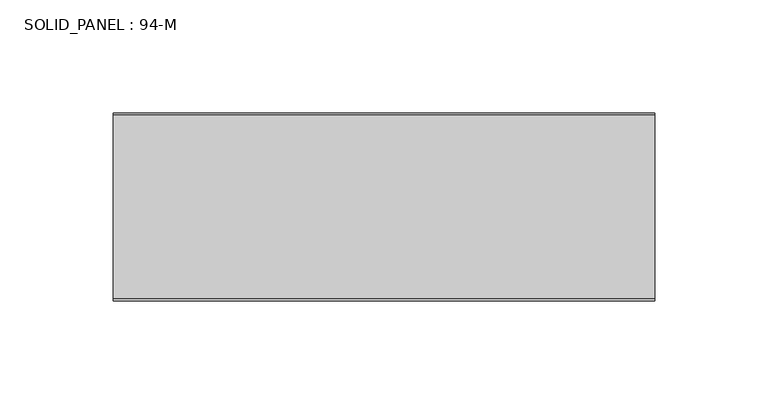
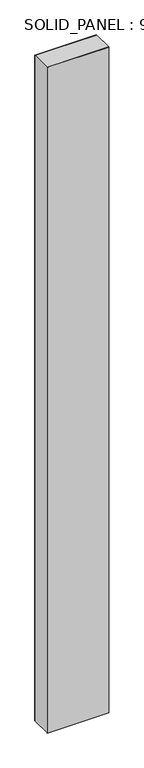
"""IFC4 building model written with IfcOpenShell, lengths in millimetres: plate geometry, SOLID_PANEL : 94-M."""

from ifc_helpers import new_model, si_unit, origin, origin_with_axes, place, context, project, spatial, polyline, outline, extrude, source, transform, mapped, element, save


def solid_panel_94_m_723be7b3(model_context):
    return source(origin(), model_context, "Body", "SweptSolid", [
        extrude(outline(polyline([(119.6, -40.5), (-119.6, -40.5), (-119.6, 40.5), (119.6, 40.5), (119.6, -40.5)])), origin_with_axes(), (0.0, 0.0, 1.0), 2739.0),
        extrude(outline(polyline([(119.6, -41.5), (-119.6, -41.5), (-119.6, -40.5), (119.6, -40.5), (119.6, -41.5)])), origin_with_axes(), (0.0, 0.0, 1.0), 2739.0),
        extrude(outline(polyline([(119.6, 40.5), (-119.6, 40.5), (-119.6, 41.5), (119.6, 41.5), (119.6, 40.5)])), origin_with_axes(), (0.0, 0.0, 1.0), 2739.0),
    ])


if __name__ == "__main__":
    model = new_model("IFC4")
    model_context = context("Model", 3, world=origin())
    ifc_project = project(units=[si_unit("LENGTHUNIT", "METRE", prefix="MILLI")], contexts=[model_context])
    site = spatial("IfcSite", under=ifc_project)
    building = spatial("IfcBuilding", under=site)
    placement = place(None, origin())
    solid_panel_94_m_shape = solid_panel_94_m_723be7b3(model_context)
    element("IfcPlate", 1, ObjectType="SOLID_PANEL : 94-M", at=placement, inside=building, context=model_context, shape_type="MappedRepresentation", body=[
        mapped(solid_panel_94_m_shape, transform((0.0, 0.0, 0.0), x_axis=(1.0, 0.0, 0.0), y_axis=(0.0, 1.0, 0.0), z_axis=(0.0, 0.0, 1.0))),
    ])
    save(model, "model.ifc")
